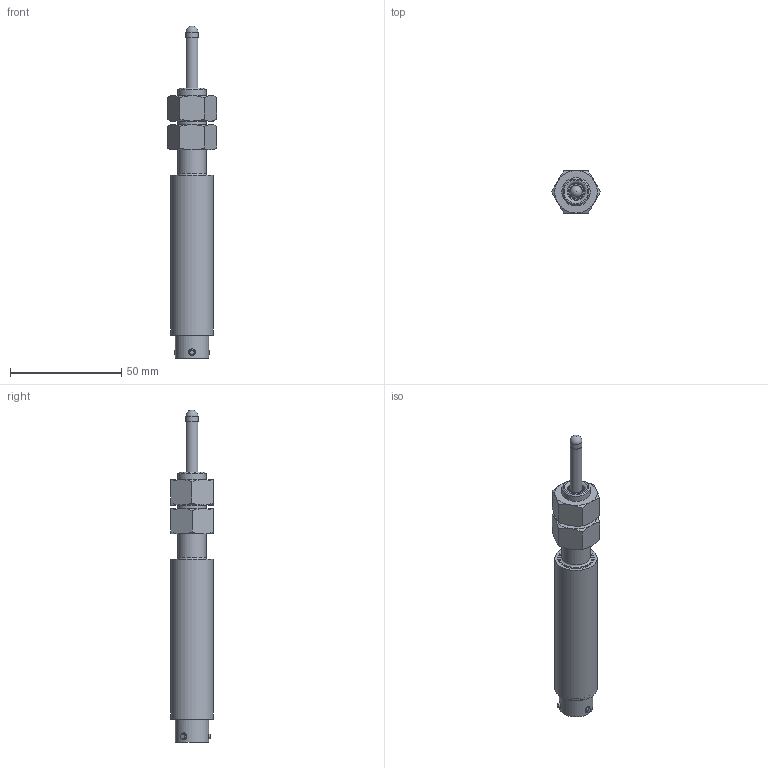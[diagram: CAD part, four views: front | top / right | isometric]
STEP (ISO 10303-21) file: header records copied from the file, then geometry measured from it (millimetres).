
FILE_DESCRIPTION(/* description */ (''),/* implementation_level */ '2;1');
FILE_NAME(/* name */ 'GH-750-E-100 ASS''Y.iam.stp',/* time_stamp */ '2023-11-10T12:29:44-05:00',/* author */ ('Justin'),/* organization */ (''),/* preprocessor_version */ 'ST-DEVELOPER v20',/* originating_system */ 'Autodesk Inventor 2024',/* authorisation */ '');
FILE_SCHEMA (('AUTOMOTIVE_DESIGN { 1 0 10303 214 3 1 1 }'));
Length unit declared in the file: inch
Products named in the file (4): GH-750-D-050 ASS'Y; GH-750-D-050 Housing_SW; GH-750-D-050 SHAFT_SW; AS 2465 - 1/2  UNF
Assembly tree (4 placements, depth 2):
  GH-750-D-050 ASS'Y
    GH-750-D-050 Housing_SW
    GH-750-D-050 SHAFT_SW
    AS 2465 - 1/2  UNF  x2
Bounding box: 22 x 19.05 x 149 mm (x, y, z)
Volume: 17881.3 mm3; surface area: 19077.8 mm2
Topology: 12 solids, 12 shells, 184 faces, 370 edges, 236 vertices
Faces by surface type: plane 74, cylinder 59, cone 43, torus 4, bspline 3, sphere 1
Full cylindrical faces by diameter (mm): 0.762 x12, 2.032 x3, 2.845 x3, 3.048 x3, 4.826 x2, 5.334 x4, 5.397 x1, 7.671 x2, 7.874 x1, 11.328 x2, 12.7 x1, 13.208 x1, 14.986 x1, 15.748 x2, 16.51 x1, 17.069 x1, 18.034 x1, 18.415 x3, 19.05 x1
Entity records: 5070 total; most frequent: CARTESIAN_POINT 1260, DIRECTION 785, ORIENTED_EDGE 636, AXIS2_PLACEMENT_3D 334, EDGE_CURVE 318, VERTEX_POINT 207, EDGE_LOOP 203, CIRCLE 168
